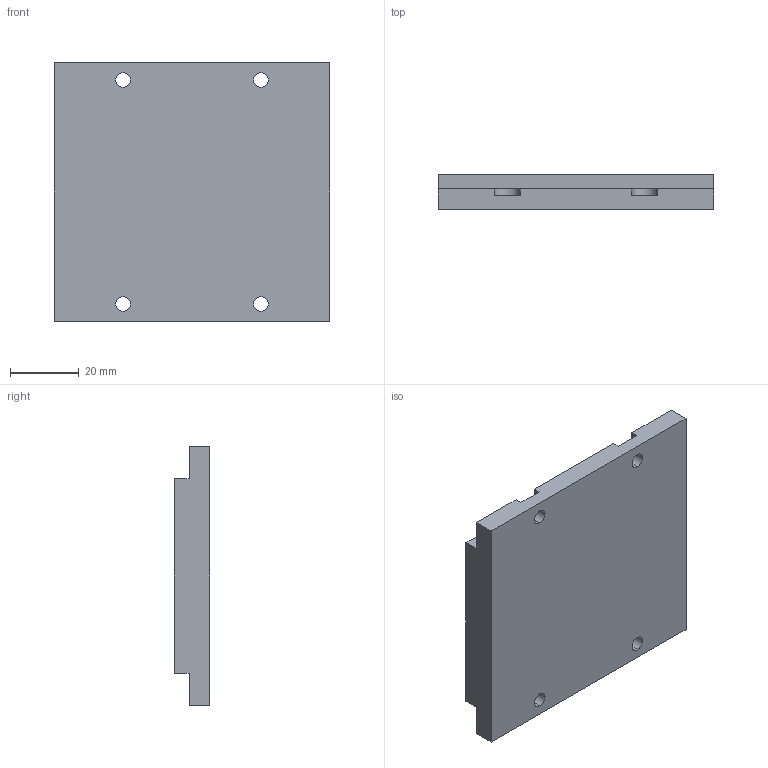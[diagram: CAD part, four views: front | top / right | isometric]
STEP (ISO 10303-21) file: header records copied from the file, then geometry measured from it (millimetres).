
FILE_DESCRIPTION (( 'STEP AP214' ), '1' );
FILE_NAME ('1-MJM050-L80.STEP', '2025-09-05T09:26:57', ( '' ), ( '' ), 'SwSTEP 2.0', 'SolidWorks 2016', '' );
FILE_SCHEMA (( 'AUTOMOTIVE_DESIGN' ));
Length unit declared in the file: millimetre
Products named in the file (1): 1-MJM050-L80
Bounding box: 80 x 10.3 x 75 mm (x, y, z)
Volume: 54692.5 mm3; surface area: 15247.3 mm2
Topology: 1 solids, 1 shells, 36 faces, 102 edges, 68 vertices
Faces by surface type: plane 22, cylinder 14
Entity records: 1224 total; most frequent: CARTESIAN_POINT 207, ORIENTED_EDGE 204, DIRECTION 204, EDGE_CURVE 102, LINE 74, VECTOR 74, VERTEX_POINT 68, AXIS2_PLACEMENT_3D 65
